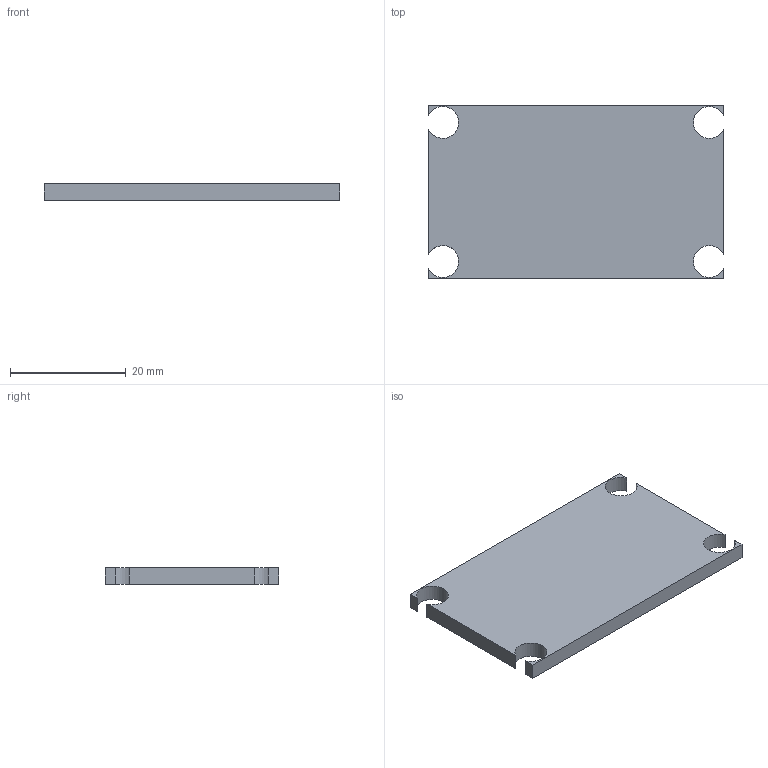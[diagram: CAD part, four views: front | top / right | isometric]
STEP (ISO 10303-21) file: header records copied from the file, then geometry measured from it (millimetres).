
FILE_DESCRIPTION(('FreeCAD Model'),'2;1');
FILE_NAME('Open CASCADE Shape Model','2026-09-19T17:54:12',('FreeCAD'),( 'FreeCAD'),'Open CASCADE STEP processor 7.8','FreeCAD','Unknown');
FILE_SCHEMA(('AUTOMOTIVE_DESIGN { 1 0 10303 214 1 1 1 1 }'));
Length unit declared in the file: millimetre
Products named in the file (1): Open CASCADE STEP translator 7.8 3
Bounding box: 51 x 30 x 2.8 mm (x, y, z)
Volume: 4022.2 mm3; surface area: 3468 mm2
Topology: 1 solids, 1 shells, 14 faces, 40 edges, 28 vertices
Faces by surface type: plane 10, cylinder 4
Entity records: 478 total; most frequent: CARTESIAN_POINT 83, DIRECTION 82, ORIENTED_EDGE 80, EDGE_CURVE 40, VERTEX_POINT 28, LINE 28, VECTOR 28, AXIS2_PLACEMENT_3D 27
